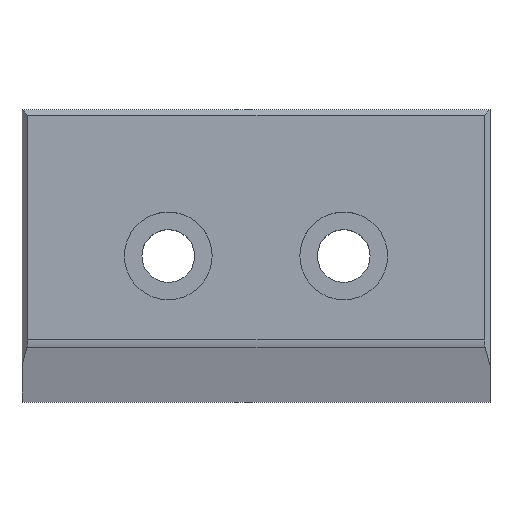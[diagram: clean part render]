
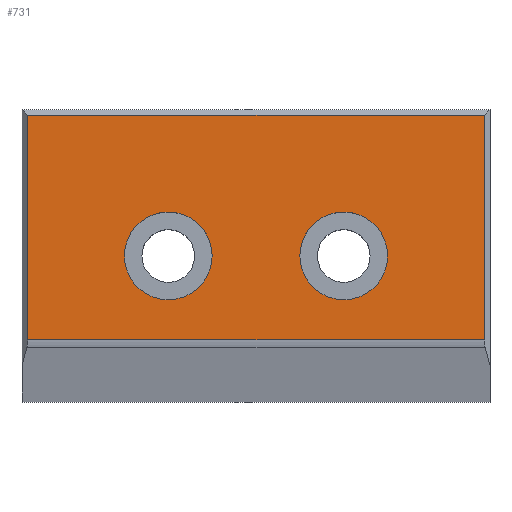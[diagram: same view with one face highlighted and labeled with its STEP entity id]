
A CAD part, top view. The second image highlights one B-rep face of the part: STEP entity #731.
In plain terms, the highlighted planar face has unit normal (0, 0, 1).
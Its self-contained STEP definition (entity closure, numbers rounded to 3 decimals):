
#12 = CIRCLE ( 'NONE', #63, 7.5 ) ;
#30 = EDGE_CURVE ( 'NONE', #490, #426, #307, .T. ) ;
#32 = ORIENTED_EDGE ( 'NONE', *, *, #694, .T. ) ;
#41 = LINE ( 'NONE', #205, #558 ) ;
#49 = CARTESIAN_POINT ( 'NONE',  ( 0., 0., 20. ) ) ;
#55 = EDGE_LOOP ( 'NONE', ( #348, #723 ) ) ;
#63 = AXIS2_PLACEMENT_3D ( 'NONE', #588, #580, #576 ) ;
#73 = VERTEX_POINT ( 'NONE', #317 ) ;
#82 = EDGE_CURVE ( 'NONE', #73, #720, #88, .T. ) ;
#88 = CIRCLE ( 'NONE', #325, 7.5 ) ;
#99 = EDGE_CURVE ( 'NONE', #304, #490, #41, .T. ) ;
#104 = CIRCLE ( 'NONE', #127, 7.5 ) ;
#108 = LINE ( 'NONE', #287, #389 ) ;
#118 = PLANE ( 'NONE',  #589 ) ;
#127 = AXIS2_PLACEMENT_3D ( 'NONE', #165, #622, #579 ) ;
#130 = DIRECTION ( 'NONE',  ( 1., 0., 0. ) ) ;
#133 = EDGE_CURVE ( 'NONE', #266, #497, #104, .T. ) ;
#163 = CARTESIAN_POINT ( 'NONE',  ( 9.709, -2.279, 20. ) ) ;
#165 = CARTESIAN_POINT ( 'NONE',  ( 17.209, -2.279, 20. ) ) ;
#182 = FACE_OUTER_BOUND ( 'NONE', #542, .T. ) ;
#187 = CARTESIAN_POINT ( 'NONE',  ( 24.709, -2.279, 20. ) ) ;
#194 = CARTESIAN_POINT ( 'NONE',  ( -20.291, -2.279, 20. ) ) ;
#195 = AXIS2_PLACEMENT_3D ( 'NONE', #211, #649, #634 ) ;
#205 = CARTESIAN_POINT ( 'NONE',  ( -36.791, 2.55, 20. ) ) ;
#211 = CARTESIAN_POINT ( 'NONE',  ( 17.209, -2.279, 20. ) ) ;
#222 = ORIENTED_EDGE ( 'NONE', *, *, #30, .T. ) ;
#225 = EDGE_CURVE ( 'NONE', #497, #266, #726, .T. ) ;
#231 = ORIENTED_EDGE ( 'NONE', *, *, #82, .F. ) ;
#252 = DIRECTION ( 'NONE',  ( 0., 0., 1. ) ) ;
#263 = CARTESIAN_POINT ( 'NONE',  ( 2.209, -16.621, 20. ) ) ;
#266 = VERTEX_POINT ( 'NONE', #187 ) ;
#287 = CARTESIAN_POINT ( 'NONE',  ( 2.209, 21.721, 20. ) ) ;
#298 = ORIENTED_EDGE ( 'NONE', *, *, #641, .F. ) ;
#304 = VERTEX_POINT ( 'NONE', #571 ) ;
#307 = LINE ( 'NONE', #263, #413 ) ;
#309 = DIRECTION ( 'NONE',  ( 0., 1., 0. ) ) ;
#317 = CARTESIAN_POINT ( 'NONE',  ( -5.291, -2.279, 20. ) ) ;
#318 = CARTESIAN_POINT ( 'NONE',  ( 41.209, 2.55, 20. ) ) ;
#325 = AXIS2_PLACEMENT_3D ( 'NONE', #372, #552, #362 ) ;
#334 = VECTOR ( 'NONE', #309, 1000. ) ;
#348 = ORIENTED_EDGE ( 'NONE', *, *, #133, .F. ) ;
#362 = DIRECTION ( 'NONE',  ( 1., 0., 0. ) ) ;
#365 = ORIENTED_EDGE ( 'NONE', *, *, #99, .T. ) ;
#368 = DIRECTION ( 'NONE',  ( 1., 0., 0. ) ) ;
#372 = CARTESIAN_POINT ( 'NONE',  ( -12.791, -2.279, 20. ) ) ;
#377 = CARTESIAN_POINT ( 'NONE',  ( 41.209, -16.621, 20. ) ) ;
#389 = VECTOR ( 'NONE', #679, 1000. ) ;
#413 = VECTOR ( 'NONE', #368, 1000. ) ;
#426 = VERTEX_POINT ( 'NONE', #377 ) ;
#463 = VERTEX_POINT ( 'NONE', #657 ) ;
#490 = VERTEX_POINT ( 'NONE', #520 ) ;
#497 = VERTEX_POINT ( 'NONE', #163 ) ;
#520 = CARTESIAN_POINT ( 'NONE',  ( -36.791, -16.621, 20. ) ) ;
#542 = EDGE_LOOP ( 'NONE', ( #365, #222, #32, #675 ) ) ;
#552 = DIRECTION ( 'NONE',  ( 0., 0., 1. ) ) ;
#558 = VECTOR ( 'NONE', #708, 1000. ) ;
#571 = CARTESIAN_POINT ( 'NONE',  ( -36.791, 21.721, 20. ) ) ;
#576 = DIRECTION ( 'NONE',  ( 1., 0., 0. ) ) ;
#579 = DIRECTION ( 'NONE',  ( 1., 0., 0. ) ) ;
#580 = DIRECTION ( 'NONE',  ( 0., 0., 1. ) ) ;
#588 = CARTESIAN_POINT ( 'NONE',  ( -12.791, -2.279, 20. ) ) ;
#589 = AXIS2_PLACEMENT_3D ( 'NONE', #49, #252, #130 ) ;
#622 = DIRECTION ( 'NONE',  ( 0., 0., 1. ) ) ;
#634 = DIRECTION ( 'NONE',  ( 1., 0., 0. ) ) ;
#641 = EDGE_CURVE ( 'NONE', #720, #73, #12, .T. ) ;
#648 = EDGE_LOOP ( 'NONE', ( #231, #298 ) ) ;
#649 = DIRECTION ( 'NONE',  ( 0., 0., 1. ) ) ;
#650 = LINE ( 'NONE', #318, #334 ) ;
#657 = CARTESIAN_POINT ( 'NONE',  ( 41.209, 21.721, 20. ) ) ;
#675 = ORIENTED_EDGE ( 'NONE', *, *, #765, .T. ) ;
#679 = DIRECTION ( 'NONE',  ( -1., 0., 0. ) ) ;
#694 = EDGE_CURVE ( 'NONE', #426, #463, #650, .T. ) ;
#704 = FACE_BOUND ( 'NONE', #648, .T. ) ;
#708 = DIRECTION ( 'NONE',  ( 0., -1., 0. ) ) ;
#719 = FACE_BOUND ( 'NONE', #55, .T. ) ;
#720 = VERTEX_POINT ( 'NONE', #194 ) ;
#723 = ORIENTED_EDGE ( 'NONE', *, *, #225, .F. ) ;
#726 = CIRCLE ( 'NONE', #195, 7.5 ) ;
#731 = ADVANCED_FACE ( 'NONE', ( #182, #719, #704 ), #118, .T. ) ;
#765 = EDGE_CURVE ( 'NONE', #463, #304, #108, .T. ) ;
